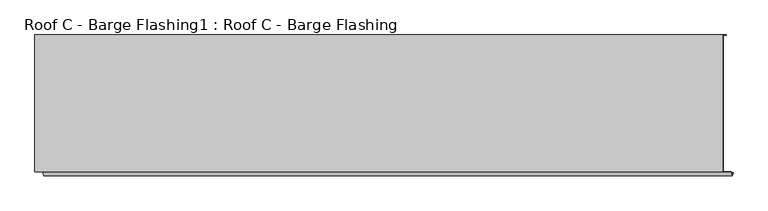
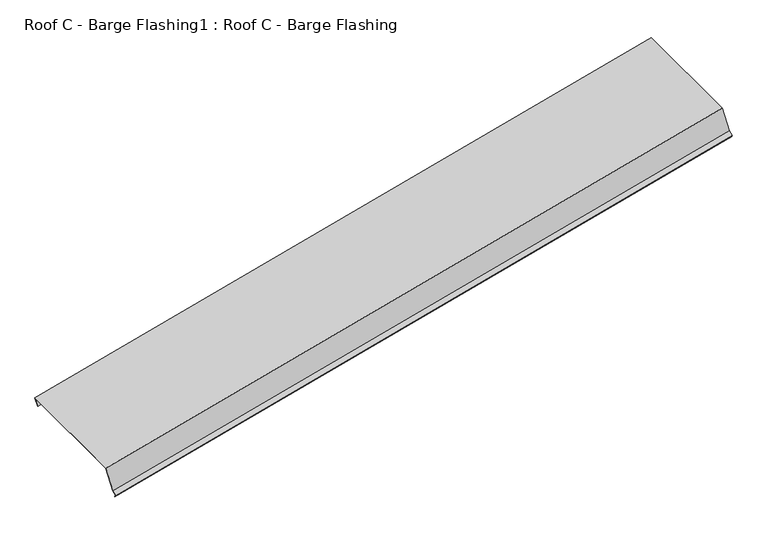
"""IFC4 building model written with IfcOpenShell, lengths in millimetres: proxy geometry, Roof C - Barge Flashing1 : Roof C - Barge Flashing."""

from ifc_helpers import new_model, si_unit, frame, origin, place, context, project, spatial, polyline, outline, extrude, source, transform, mapped, element, save


def roof_c_barge_flashing1_roof_c_barge_flashing_03f101cb(model_context):
    return source(origin(), model_context, "Body", "SweptSolid", [
        extrude(outline(polyline([(-469.9839669, -107.6029118), (-469.9839669, -67.6029117), (-468.9839669, -67.6029117), (-468.9839669, -106.6029117), (18.2657646, -106.6029117), (18.2657646, 2.8113018), (31.9936866, 16.5392239), (22.0941917, 26.4387188), (22.8012985, 27.1458256), (33.4079002, 16.5392239), (19.2657646, 2.3970882), (19.2657646, -107.6029118), (-469.9839669, -107.6029118)])), frame((-10902.2706207, -24736.1704124, 3194.1221318), z_axis=(0.9659258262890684, 0.0, 0.2588190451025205), x_axis=(0.0, -1.0, 0.0)), (0.0, 0.0, 1.0), 2546.2367807),
    ])


if __name__ == "__main__":
    model = new_model("IFC4")
    model_context = context("Model", 3, world=origin())
    ifc_project = project(units=[si_unit("LENGTHUNIT", "METRE", prefix="MILLI")], contexts=[model_context])
    site = spatial("IfcSite", under=ifc_project)
    building = spatial("IfcBuilding", under=site)
    placement = place(None, origin())
    roof_c_barge_flashing1_roof_c_barge_flashing_shape = roof_c_barge_flashing1_roof_c_barge_flashing_03f101cb(model_context)
    element("IfcBuildingElementProxy", 1, Name="Roof C - Barge Flashing1 : Roof C - Barge Flashing", ObjectType="Roof C - Barge Flashing1 : Roof C - Barge Flashing", at=placement, inside=building, context=model_context, shape_type="MappedRepresentation", body=[
        mapped(roof_c_barge_flashing1_roof_c_barge_flashing_shape, transform((0.0, 0.0, 0.0), x_axis=(1.0, 0.0, 0.0), y_axis=(0.0, 1.0, 0.0), z_axis=(0.0, 0.0, 1.0))),
    ])
    save(model, "model.ifc")
